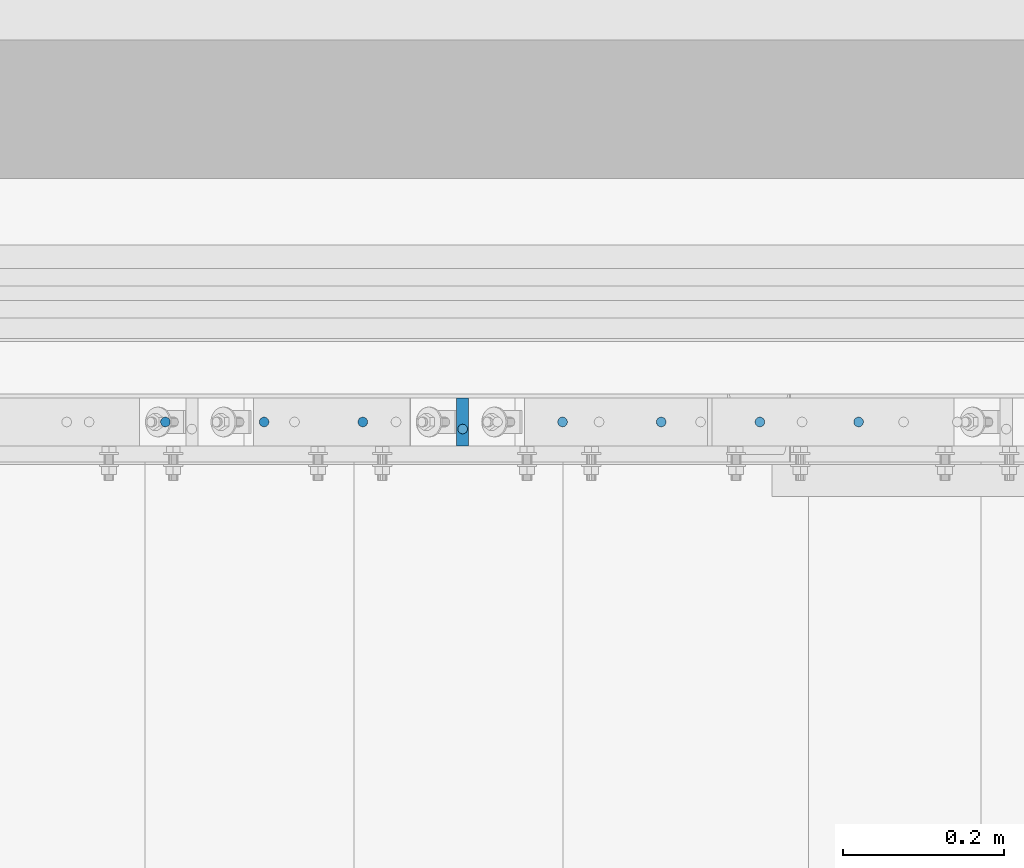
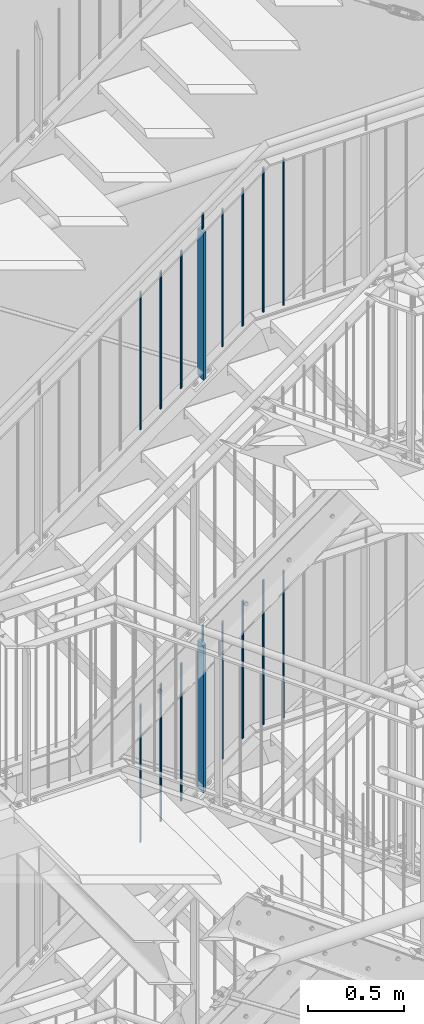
# One storey, part 80 of 825: 18 columns.
"""IFC2X3 building model written with IfcOpenShell, lengths in millimetres."""

from ifc_helpers import new_model, entity, si_unit, converted_unit, frame, origin, origin_with_axes, origin_2d, place, context, project, spatial, rectangle, circle, extrude, clip, halfspace, material, element, save


model = new_model("IFC2X3")

# Units and contexts
model_context = context("Model", 3, precision=1e-09, world=origin_with_axes())
ifc_project = project(units=[si_unit("LENGTHUNIT", "METRE", prefix="MILLI"), si_unit("AREAUNIT", "SQUARE_METRE"), si_unit("VOLUMEUNIT", "CUBIC_METRE"), converted_unit("PLANEANGLEUNIT", "DEGREE", entity("IfcPlaneAngleMeasure", 0.01745329), si_unit("PLANEANGLEUNIT", "RADIAN"), dimensions=[0, 0, 0, 0, 0, 0, 0])], contexts=[model_context])

# Site, building, storey
site_placement = place(None, origin_with_axes())
site = spatial("IfcSite", under=ifc_project, at=site_placement, Name="Cnopf'sche Kinderklinik", CompositionType="ELEMENT")
building_placement = place(site_placement, origin_with_axes())
building = spatial("IfcBuilding", under=site, at=building_placement, Name="Struktur 1", CompositionType="ELEMENT")
storey_placement = place(building_placement, origin_with_axes())
storey = spatial("IfcBuildingStorey", under=building, at=storey_placement, Name="Default Storey", CompositionType="ELEMENT", Elevation=0.0)

# Columns
ifc_material = material(Name="S235JR")
column_1_placement = place(None, frame((6671.713688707, 7356.736971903, 9397.27412433), z_axis=(0.0, 0.0, 1.0), x_axis=(1.0, 0.0, 0.0)))
element("IfcColumn", 1, at=column_1_placement, inside=storey, material=ifc_material, Name="Railing_Post_Stair#2", ObjectType="Railing_Post_Stair#2", context=model_context, shape_type="Clipping", body=[
    clip(clip(extrude(rectangle(XDim=15.0, YDim=60.0, at=origin_2d()), origin(), (0.0, 0.0, -1.0), 1013.13824851), halfspace(frame((-8380.184833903, -7356.736971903, -7034.494880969), z_axis=(-0.585945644, 0.0, 0.810350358), x_axis=(0.0, -1.0, 0.0)), True)), halfspace(frame((-8825.004507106, -7356.736971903, -6419.318737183), z_axis=(0.585945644, 0.0, -0.810350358), x_axis=(0.0, 1.0, 0.0)), True)),
])
column_2_placement = place(None, frame((6301.963641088, 7356.736971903, 9102.227126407), z_axis=(0.0, 0.0, 1.0), x_axis=(1.0, 0.0, 0.0)))
element("IfcColumn", 2, at=column_2_placement, inside=storey, material=ifc_material, Name="Railing_Picket_Stair#11", ObjectType="Railing_Picket_Stair#11", context=model_context, shape_type="Clipping", body=[
    clip(clip(extrude(circle(Radius=6.0, at=origin_2d()), origin(), (0.0, 0.0, -1.0), 896.057999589), halfspace(frame((-8455.254459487, -7356.736971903, -6124.27173926), z_axis=(0.585945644, 0.0, -0.810350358), x_axis=(0.0, 1.0, 0.0)), True)), halfspace(frame((-8039.732068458, -7356.736971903, -6698.930365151), z_axis=(-0.585945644, 0.0, 0.810350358), x_axis=(0.0, -1.0, 0.0)), True)),
])
column_3_placement = place(None, frame((6424.713664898, 7356.736971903, 9190.98483593), z_axis=(0.0, 0.0, 1.0), x_axis=(1.0, 0.0, 0.0)))
element("IfcColumn", 3, at=column_3_placement, inside=storey, material=ifc_material, Name="Railing_Picket_Stair#12", ObjectType="Railing_Picket_Stair#12", context=model_context, shape_type="Clipping", body=[
    clip(clip(extrude(circle(Radius=6.0, at=origin_2d()), origin(), (0.0, 0.0, -1.0), 896.057999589), halfspace(frame((-8578.004483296, -7356.736971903, -6213.029448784), z_axis=(0.585945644, 0.0, -0.810350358), x_axis=(0.0, 1.0, 0.0)), True)), halfspace(frame((-8162.482092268, -7356.736971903, -6787.688074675), z_axis=(-0.585945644, 0.0, 0.810350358), x_axis=(0.0, -1.0, 0.0)), True)),
])
column_4_placement = place(None, frame((6547.463688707, 7356.736971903, 9279.742545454), z_axis=(0.0, 0.0, 1.0), x_axis=(1.0, 0.0, 0.0)))
element("IfcColumn", 4, at=column_4_placement, inside=storey, material=ifc_material, Name="Railing_Picket_Stair#13", ObjectType="Railing_Picket_Stair#13", context=model_context, shape_type="Clipping", body=[
    clip(clip(extrude(circle(Radius=6.0, at=origin_2d()), origin(), (0.0, 0.0, -1.0), 896.057999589), halfspace(frame((-8700.754507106, -7356.736971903, -6301.787158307), z_axis=(0.585945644, 0.0, -0.810350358), x_axis=(0.0, 1.0, 0.0)), True)), halfspace(frame((-8285.232116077, -7356.736971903, -6876.445784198), z_axis=(-0.585945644, 0.0, 0.810350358), x_axis=(0.0, -1.0, 0.0)), True)),
])
column_5_placement = place(None, frame((6795.963688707, 7356.736971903, 9459.427160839), z_axis=(0.0, 0.0, 1.0), x_axis=(1.0, 0.0, 0.0)))
element("IfcColumn", 5, at=column_5_placement, inside=storey, material=ifc_material, Name="Railing_Picket_Stair#14", ObjectType="Railing_Picket_Stair#14", context=model_context, shape_type="Clipping", body=[
    clip(clip(extrude(circle(Radius=6.0, at=origin_2d()), origin(), (0.0, 0.0, -1.0), 896.057999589), halfspace(frame((-8949.254507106, -7356.736971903, -6481.471773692), z_axis=(0.585945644, 0.0, -0.810350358), x_axis=(0.0, 1.0, 0.0)), True)), halfspace(frame((-8533.732116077, -7356.736971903, -7056.130399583), z_axis=(-0.585945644, 0.0, 0.810350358), x_axis=(0.0, -1.0, 0.0)), True)),
])
column_6_placement = place(None, frame((6918.713712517, 7356.736971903, 9548.184870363), z_axis=(0.0, 0.0, 1.0), x_axis=(1.0, 0.0, 0.0)))
element("IfcColumn", 6, at=column_6_placement, inside=storey, material=ifc_material, Name="Railing_Picket_Stair#15", ObjectType="Railing_Picket_Stair#15", context=model_context, shape_type="Clipping", body=[
    clip(clip(extrude(circle(Radius=6.0, at=origin_2d()), origin(), (0.0, 0.0, -1.0), 896.057999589), halfspace(frame((-9072.004530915, -7356.736971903, -6570.229483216), z_axis=(0.585945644, 0.0, -0.810350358), x_axis=(0.0, 1.0, 0.0)), True)), halfspace(frame((-8656.482139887, -7356.736971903, -7144.888109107), z_axis=(-0.585945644, 0.0, 0.810350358), x_axis=(0.0, -1.0, 0.0)), True)),
])
column_7_placement = place(None, frame((7041.463736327, 7356.736971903, 9636.942579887), z_axis=(0.0, 0.0, 1.0), x_axis=(1.0, 0.0, 0.0)))
element("IfcColumn", 7, at=column_7_placement, inside=storey, material=ifc_material, Name="Railing_Picket_Landing#16", ObjectType="Railing_Picket_Landing#16", context=model_context, shape_type="Clipping", body=[
    clip(extrude(circle(Radius=6.0, at=origin_2d()), origin(), (0.0, 0.0, -1.0), 930.942579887), halfspace(frame((-9194.754554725, -7356.736971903, -6658.98719274), z_axis=(0.585945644, 0.0, -0.810350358), x_axis=(0.0, 1.0, 0.0)), True)),
])
column_8_placement = place(None, frame((7164.213760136, 7356.736971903, 9658.285281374), z_axis=(0.0, 0.0, 1.0), x_axis=(1.0, 0.0, 0.0)))
element("IfcColumn", 8, at=column_8_placement, inside=storey, material=ifc_material, Name="Railing_Picket_Landing#17", ObjectType="Railing_Picket_Landing#17", context=model_context, shape_type="Clipping", body=[
    clip(clip(extrude(circle(Radius=6.0, at=origin_2d()), origin(), (0.0, 0.0, -1.0), 965.770562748), halfspace(frame((-7164.213760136, -7356.736971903, -13.486281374), z_axis=(0.0, 0.0, -1.0), x_axis=(-1.0, 0.0, 0.0)), True)), halfspace(frame((-7164.213760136, -7356.736971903, -952.284281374), z_axis=(0.0, 0.0, 1.0), x_axis=(1.0, 0.0, 0.0)), True)),
])
column_9_placement = place(None, frame((6671.713688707, 7347.936971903, 9481.925194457), z_axis=(0.0, 0.0, 1.0), x_axis=(0.0, -1.0, 0.0)))
element("IfcColumn", 9, at=column_9_placement, inside=storey, material=ifc_material, Name="Bar#2", ObjectType="Bar#2", context=model_context, shape_type="Clipping", body=[
    clip(clip(extrude(circle(Radius=6.0, at=origin_2d()), origin(), (0.0, 0.0, -1.0), 120.942253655), halfspace(frame((7347.936971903, -8830.865135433, -6495.864683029), z_axis=(0.0, -0.585945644, 0.810350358), x_axis=(1.0, 0.0, 0.0)), True)), halfspace(frame((7347.936971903, -8878.346089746, -6430.199533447), z_axis=(0.0, 0.585945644, -0.810350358), x_axis=(-1.0, 0.0, 0.0)), True)),
])
column_10_placement = place(None, frame((6671.713688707, 7356.736971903, 12027.303192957), z_axis=(0.0, 0.0, 1.0), x_axis=(1.0, 0.0, 0.0)))
element("IfcColumn", 10, at=column_10_placement, inside=storey, material=ifc_material, Name="Railing_Post_Stair#2", ObjectType="Railing_Post_Stair#2", context=model_context, shape_type="Clipping", body=[
    clip(clip(extrude(rectangle(XDim=15.0, YDim=60.0, at=origin_2d()), origin(), (0.0, 0.0, -1.0), 1013.129684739), halfspace(frame((-9631.55343364, -7356.736971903, -7926.116794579), z_axis=(-0.585213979, 0.0, 0.810878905), x_axis=(0.0, -1.0, 0.0)), True)), halfspace(frame((-10076.126978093, -7356.736971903, -7310.110817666), z_axis=(0.585213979, 0.0, -0.810878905), x_axis=(0.0, 1.0, 0.0)), True)),
])
column_11_placement = place(None, frame((6301.963641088, 7356.736971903, 11732.782141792), z_axis=(0.0, 0.0, 1.0), x_axis=(1.0, 0.0, 0.0)))
element("IfcColumn", 11, at=column_11_placement, inside=storey, material=ifc_material, Name="Railing_Picket_Stair#11", ObjectType="Railing_Picket_Stair#11", context=model_context, shape_type="Clipping", body=[
    clip(clip(extrude(circle(Radius=6.0, at=origin_2d()), origin(), (0.0, 0.0, -1.0), 896.125751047), halfspace(frame((-9706.376930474, -7356.736971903, -7015.589766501), z_axis=(0.585213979, 0.0, -0.810878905), x_axis=(0.0, 1.0, 0.0)), True)), halfspace(frame((-9291.064084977, -7356.736971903, -7591.051798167), z_axis=(-0.585213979, 0.0, 0.810878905), x_axis=(0.0, -1.0, 0.0)), True)),
])
column_12_placement = place(None, frame((6424.713664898, 7356.736971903, 11821.37123867), z_axis=(0.0, 0.0, 1.0), x_axis=(1.0, 0.0, 0.0)))
element("IfcColumn", 12, at=column_12_placement, inside=storey, material=ifc_material, Name="Railing_Picket_Stair#12", ObjectType="Railing_Picket_Stair#12", context=model_context, shape_type="Clipping", body=[
    clip(clip(extrude(circle(Radius=6.0, at=origin_2d()), origin(), (0.0, 0.0, -1.0), 896.125751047), halfspace(frame((-9829.126954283, -7356.736971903, -7104.17886338), z_axis=(0.585213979, 0.0, -0.810878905), x_axis=(0.0, 1.0, 0.0)), True)), halfspace(frame((-9413.814108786, -7356.736971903, -7679.640895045), z_axis=(-0.585213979, 0.0, 0.810878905), x_axis=(0.0, -1.0, 0.0)), True)),
])
column_13_placement = place(None, frame((6547.463688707, 7356.736971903, 11909.960335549), z_axis=(0.0, 0.0, 1.0), x_axis=(1.0, 0.0, 0.0)))
element("IfcColumn", 13, at=column_13_placement, inside=storey, material=ifc_material, Name="Railing_Picket_Stair#13", ObjectType="Railing_Picket_Stair#13", context=model_context, shape_type="Clipping", body=[
    clip(clip(extrude(circle(Radius=6.0, at=origin_2d()), origin(), (0.0, 0.0, -1.0), 896.125751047), halfspace(frame((-9951.876978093, -7356.736971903, -7192.767960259), z_axis=(0.585213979, 0.0, -0.810878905), x_axis=(0.0, 1.0, 0.0)), True)), halfspace(frame((-9536.564132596, -7356.736971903, -7768.229991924), z_axis=(-0.585213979, 0.0, 0.810878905), x_axis=(0.0, -1.0, 0.0)), True)),
])
column_14_placement = place(None, frame((6795.963688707, 7356.736971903, 12089.30360483), z_axis=(0.0, 0.0, 1.0), x_axis=(1.0, 0.0, 0.0)))
element("IfcColumn", 14, at=column_14_placement, inside=storey, material=ifc_material, Name="Railing_Picket_Stair#14", ObjectType="Railing_Picket_Stair#14", context=model_context, shape_type="Clipping", body=[
    clip(clip(extrude(circle(Radius=6.0, at=origin_2d()), origin(), (0.0, 0.0, -1.0), 896.125751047), halfspace(frame((-10200.376978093, -7356.736971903, -7372.11122954), z_axis=(0.585213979, 0.0, -0.810878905), x_axis=(0.0, 1.0, 0.0)), True)), halfspace(frame((-9785.064132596, -7356.736971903, -7947.573261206), z_axis=(-0.585213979, 0.0, 0.810878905), x_axis=(0.0, -1.0, 0.0)), True)),
])
column_15_placement = place(None, frame((6918.713712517, 7356.736971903, 12177.892701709), z_axis=(0.0, 0.0, 1.0), x_axis=(1.0, 0.0, 0.0)))
element("IfcColumn", 15, at=column_15_placement, inside=storey, material=ifc_material, Name="Railing_Picket_Stair#15", ObjectType="Railing_Picket_Stair#15", context=model_context, shape_type="Clipping", body=[
    clip(clip(extrude(circle(Radius=6.0, at=origin_2d()), origin(), (0.0, 0.0, -1.0), 896.125751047), halfspace(frame((-10323.127001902, -7356.736971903, -7460.700326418), z_axis=(0.585213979, 0.0, -0.810878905), x_axis=(0.0, 1.0, 0.0)), True)), halfspace(frame((-9907.814156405, -7356.736971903, -8036.162358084), z_axis=(-0.585213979, 0.0, 0.810878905), x_axis=(0.0, -1.0, 0.0)), True)),
])
column_16_placement = place(None, frame((7041.463736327, 7356.736971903, 12266.481798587), z_axis=(0.0, 0.0, 1.0), x_axis=(1.0, 0.0, 0.0)))
element("IfcColumn", 16, at=column_16_placement, inside=storey, material=ifc_material, Name="Railing_Picket_Landing#16", ObjectType="Railing_Picket_Landing#16", context=model_context, shape_type="Clipping", body=[
    clip(extrude(circle(Radius=6.0, at=origin_2d()), origin(), (0.0, 0.0, -1.0), 930.981798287), halfspace(frame((-10445.877025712, -7356.736971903, -7549.289423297), z_axis=(0.585213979, 0.0, -0.810878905), x_axis=(0.0, 1.0, 0.0)), True)),
])
column_17_placement = place(None, frame((7164.213760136, 7356.736971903, 12287.785281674), z_axis=(0.0, 0.0, 1.0), x_axis=(1.0, 0.0, 0.0)))
element("IfcColumn", 17, at=column_17_placement, inside=storey, material=ifc_material, Name="Railing_Picket_Landing#17", ObjectType="Railing_Picket_Landing#17", context=model_context, shape_type="Clipping", body=[
    clip(clip(extrude(circle(Radius=6.0, at=origin_2d()), origin(), (0.0, 0.0, -1.0), 965.770562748), halfspace(frame((-7164.213760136, -7356.736971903, -13.486281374), z_axis=(0.0, 0.0, -1.0), x_axis=(-1.0, 0.0, 0.0)), True)), halfspace(frame((-7164.213760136, -7356.736971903, -952.284281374), z_axis=(0.0, 0.0, 1.0), x_axis=(1.0, 0.0, 0.0)), True)),
])
column_18_placement = place(None, frame((6671.713688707, 7347.936971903, 12111.964267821), z_axis=(0.0, 0.0, 1.0), x_axis=(0.0, -1.0, 0.0)))
element("IfcColumn", 18, at=column_18_placement, inside=storey, material=ifc_material, Name="Bar#2", ObjectType="Bar#2", context=model_context, shape_type="Clipping", body=[
    clip(clip(extrude(circle(Radius=6.0, at=origin_2d()), origin(), (0.0, 0.0, -1.0), 120.928603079), halfspace(frame((7347.936971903, -10081.980288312, -7386.661481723), z_axis=(0.0, -0.585213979, 0.810878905), x_axis=(1.0, 0.0, 0.0)), True)), halfspace(frame((7347.936971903, -10129.432884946, -7320.910643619), z_axis=(0.0, 0.585213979, -0.810878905), x_axis=(-1.0, 0.0, 0.0)), True)),
])

save(model, "model.ifc")
